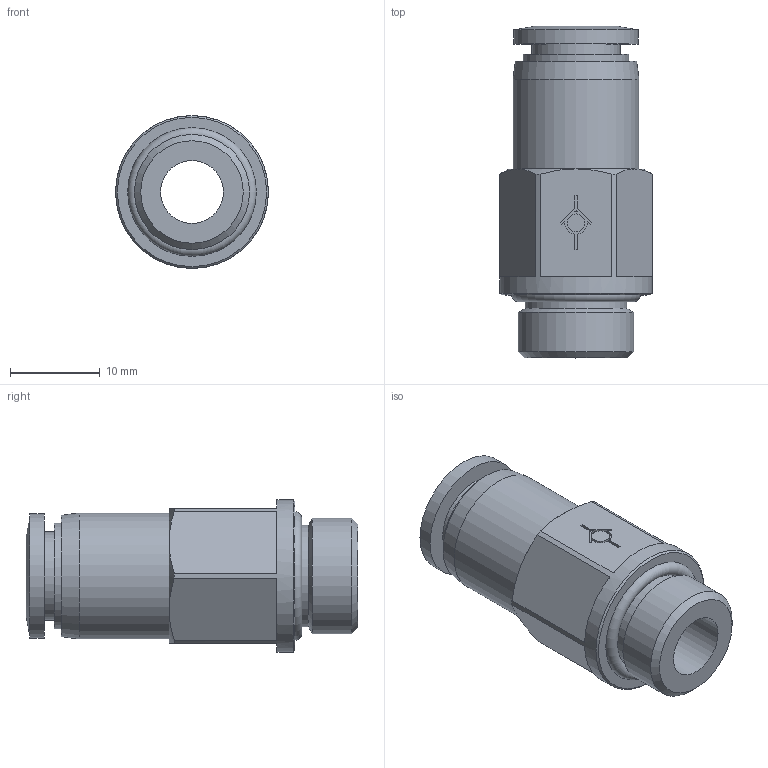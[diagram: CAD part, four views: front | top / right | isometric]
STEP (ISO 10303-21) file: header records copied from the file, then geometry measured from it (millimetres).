
FILE_DESCRIPTION(/* description */ (''),/* implementation_level */ '2;1');
FILE_NAME(/* name */ 'D:\CDC pneumatics\inventor\CVPC G\CVPC 08G02.stp',/* time_stamp */ '2015-08-31T13:15:23+09:00',/* author */ ('DIAMOND'),/* organization */ (''),/* preprocessor_version */ 'ST-DEVELOPER v15.6',/* originating_system */ 'Autodesk Inventor 2015',/* authorisation */ '');
FILE_SCHEMA (('AUTOMOTIVE_DESIGN { 1 0 10303 214 3 1 1 }'));
Length unit declared in the file: millimetre
Products named in the file (1): CVPC 08G02
Bounding box: 17 x 36.9 x 17 mm (x, y, z)
Volume: 4307.6 mm3; surface area: 3094.8 mm2
Topology: 1 solids, 1 shells, 63 faces, 142 edges, 90 vertices
Faces by surface type: plane 37, cylinder 13, cone 11, torus 2
Full cylindrical faces by diameter (mm): 2 x1, 7 x1, 8 x1, 9.8 x1, 11.3 x1, 11.7 x1, 12.8 x1, 13.8 x1, 14 x1, 17 x1
Entity records: 1683 total; most frequent: CARTESIAN_POINT 301, DIRECTION 289, ORIENTED_EDGE 248, EDGE_CURVE 124, AXIS2_PLACEMENT_3D 113, EDGE_LOOP 91, VERTEX_POINT 89, FACE_OUTER_BOUND 63
